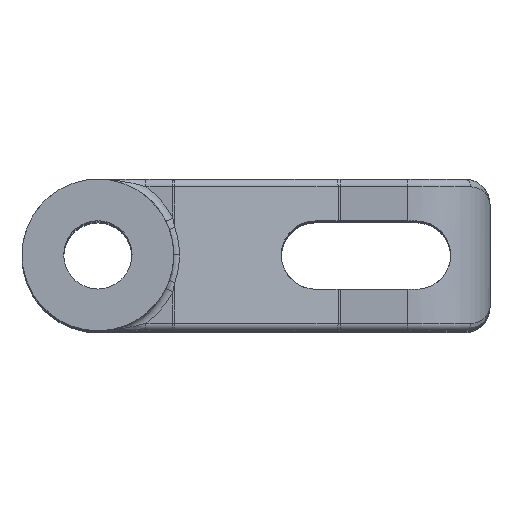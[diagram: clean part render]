
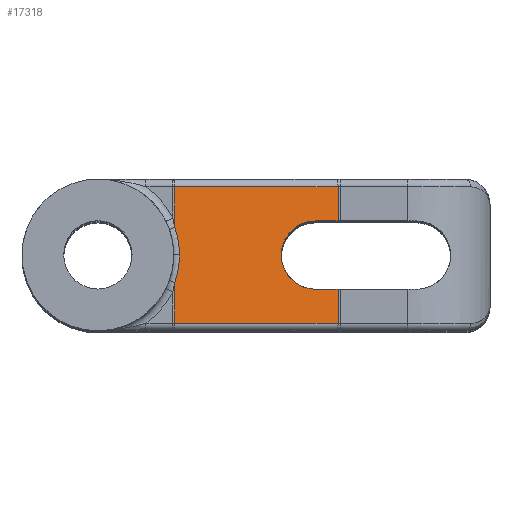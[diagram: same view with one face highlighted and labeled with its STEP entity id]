
A CAD part, top view. The second image highlights one B-rep face of the part: STEP entity #17318.
In plain terms, the highlighted planar face has unit normal (0.259, 0, 0.966).
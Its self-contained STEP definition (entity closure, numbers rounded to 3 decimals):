
#6722=DIRECTION('',(-0.966,0.,0.259));
#6723=VECTOR('',#6722,13.365);
#6724=CARTESIAN_POINT('',(18.986,5.4,81.52));
#6725=LINE('',#6724,#6723);
#6729=DIRECTION('',(0.,-1.,0.));
#6730=VECTOR('',#6729,2.705);
#6731=CARTESIAN_POINT('',(18.986,5.4,81.52));
#6732=LINE('',#6731,#6730);
#6736=DIRECTION('',(-0.966,0.,0.259));
#6737=VECTOR('',#6736,1.854);
#6738=CARTESIAN_POINT('',(18.986,2.695,81.52));
#6739=LINE('',#6738,#6737);
#6743=CARTESIAN_POINT('',(17.195,2.695,82.));
#6744=CARTESIAN_POINT('',(16.877,2.695,82.085));
#6745=CARTESIAN_POINT('',(16.191,2.58,82.269));
#6746=CARTESIAN_POINT('',(15.232,1.962,82.526));
#6747=CARTESIAN_POINT('',(14.718,1.165,82.664));
#6748=CARTESIAN_POINT('',(14.528,0.487,82.715));
#6749=CARTESIAN_POINT('',(14.486,0.,82.726));
#6750=CARTESIAN_POINT('',(14.528,-0.487,
82.715));
#6751=CARTESIAN_POINT('',(14.718,-1.165,82.664));
#6752=CARTESIAN_POINT('',(15.232,-1.962,82.526));
#6753=CARTESIAN_POINT('',(16.191,-2.58,82.269));
#6754=CARTESIAN_POINT('',(16.877,-2.695,82.085));
#6755=CARTESIAN_POINT('',(17.195,-2.695,82.));
#6760=DIRECTION('',(-0.966,0.,0.259));
#6761=VECTOR('',#6760,1.854);
#6762=CARTESIAN_POINT('',(18.986,-2.695,81.52));
#6763=LINE('',#6762,#6761);
#6767=DIRECTION('',(0.,-1.,0.));
#6768=VECTOR('',#6767,2.705);
#6769=CARTESIAN_POINT('',(18.986,-2.695,81.52));
#6770=LINE('',#6769,#6768);
#6774=DIRECTION('',(0.966,0.,-0.259));
#6775=VECTOR('',#6774,13.365);
#6776=CARTESIAN_POINT('',(6.076,-5.4,84.98));
#6777=LINE('',#6776,#6775);
#6781=CARTESIAN_POINT('',(6.076,-2.174,84.98));
#6782=CARTESIAN_POINT('',(6.158,-1.94,84.958));
#6783=CARTESIAN_POINT('',(6.294,-1.466,84.921));
#6784=CARTESIAN_POINT('',(6.418,-0.731,
84.888));
#6785=CARTESIAN_POINT('',(6.445,-0.244,
84.881));
#6786=CARTESIAN_POINT('',(6.445,0.,
84.881));
#6791=CARTESIAN_POINT('',(6.445,0.,
84.881));
#6792=CARTESIAN_POINT('',(6.445,0.244,84.881));
#6793=CARTESIAN_POINT('',(6.418,0.731,84.888));
#6794=CARTESIAN_POINT('',(6.294,1.465,84.921));
#6795=CARTESIAN_POINT('',(6.158,1.939,84.958));
#6796=CARTESIAN_POINT('',(6.076,2.174,84.98));
#7854=DIRECTION('',(0.,-1.,0.));
#7855=VECTOR('',#7854,3.226);
#7856=CARTESIAN_POINT('',(6.076,5.4,84.98));
#7857=LINE('',#7856,#7855);
#7861=CARTESIAN_POINT('',(6.076,2.174,84.98));
#7888=DIRECTION('',(0.,-1.,0.));
#7889=VECTOR('',#7888,3.226);
#7890=CARTESIAN_POINT('',(6.076,-2.174,84.98));
#7891=LINE('',#7890,#7889);
#11438=CARTESIAN_POINT('',(17.195,2.695,82.));
#11440=VERTEX_POINT('',#11438);
#11442=CARTESIAN_POINT('',(17.195,-2.695,82.));
#11444=VERTEX_POINT('',#11442);
#11527=CARTESIAN_POINT('',(18.986,2.695,81.52));
#11529=VERTEX_POINT('',#11527);
#11532=CARTESIAN_POINT('',(18.986,-2.695,81.52));
#11534=VERTEX_POINT('',#11532);
#11563=VERTEX_POINT('',#7861);
#11567=VERTEX_POINT('',#6791);
#11569=VERTEX_POINT('',#6781);
#11692=CARTESIAN_POINT('',(6.076,5.4,84.98));
#11693=VERTEX_POINT('',#11692);
#11694=CARTESIAN_POINT('',(18.986,5.4,81.52));
#11695=VERTEX_POINT('',#11694);
#11747=CARTESIAN_POINT('',(18.986,-5.4,81.52));
#11748=VERTEX_POINT('',#11747);
#11751=CARTESIAN_POINT('',(6.076,-5.4,84.98));
#11752=VERTEX_POINT('',#11751);
#17292=CARTESIAN_POINT('',(19.062,-6.,81.5));
#17293=DIRECTION('',(-0.259,0.,-0.966));
#17294=DIRECTION('',(-0.966,0.,0.259));
#17295=AXIS2_PLACEMENT_3D('',#17292,#17293,#17294);
#17296=PLANE('',#17295);
#17297=ORIENTED_EDGE('',*,*,#17283,.F.);
#17298=ORIENTED_EDGE('',*,*,#17260,.T.);
#17299=ORIENTED_EDGE('',*,*,#17246,.T.);
#17301=ORIENTED_EDGE('',*,*,#17300,.T.);
#17303=ORIENTED_EDGE('',*,*,#17302,.F.);
#17305=ORIENTED_EDGE('',*,*,#17304,.T.);
#17307=ORIENTED_EDGE('',*,*,#17306,.F.);
#17309=ORIENTED_EDGE('',*,*,#17308,.F.);
#17311=ORIENTED_EDGE('',*,*,#17310,.T.);
#17313=ORIENTED_EDGE('',*,*,#17312,.T.);
#17315=ORIENTED_EDGE('',*,*,#17314,.F.);
#17316=EDGE_LOOP('',(#17297,#17298,#17299,#17301,#17303,#17305,#17307,#17309,
#17311,#17313,#17315));
#17317=FACE_OUTER_BOUND('',#17316,.F.);
#17318=ADVANCED_FACE('',(#17317),#17296,.F.);
#6756=B_SPLINE_CURVE_WITH_KNOTS('',3,(#6743,#6744,#6745,#6746,#6747,#6748,#6749,
#6750,#6751,#6752,#6753,#6754,#6755),.UNSPECIFIED.,.F.,.F.,(4,1,1,1,1,1,1,1,1,1,
4),(0.,0.125,0.25,0.375,0.438,0.5,0.563,0.625,0.75,0.875,
1.),.UNSPECIFIED.);
#6787=B_SPLINE_CURVE_WITH_KNOTS('',3,(#6781,#6782,#6783,#6784,#6785,#6786),
.UNSPECIFIED.,.F.,.F.,(4,1,1,4),(0.,0.333,0.667,1.),
.UNSPECIFIED.);
#6797=B_SPLINE_CURVE_WITH_KNOTS('',3,(#6791,#6792,#6793,#6794,#6795,#6796),
.UNSPECIFIED.,.F.,.F.,(4,1,1,4),(0.,0.333,0.667,1.),
.UNSPECIFIED.);
#17246=EDGE_CURVE('',#11529,#11440,#6739,.T.);
#17260=EDGE_CURVE('',#11695,#11529,#6732,.T.);
#17283=EDGE_CURVE('',#11695,#11693,#6725,.T.);
#17300=EDGE_CURVE('',#11440,#11444,#6756,.T.);
#17302=EDGE_CURVE('',#11534,#11444,#6763,.T.);
#17304=EDGE_CURVE('',#11534,#11748,#6770,.T.);
#17306=EDGE_CURVE('',#11752,#11748,#6777,.T.);
#17308=EDGE_CURVE('',#11569,#11752,#7891,.T.);
#17310=EDGE_CURVE('',#11569,#11567,#6787,.T.);
#17312=EDGE_CURVE('',#11567,#11563,#6797,.T.);
#17314=EDGE_CURVE('',#11693,#11563,#7857,.T.);
